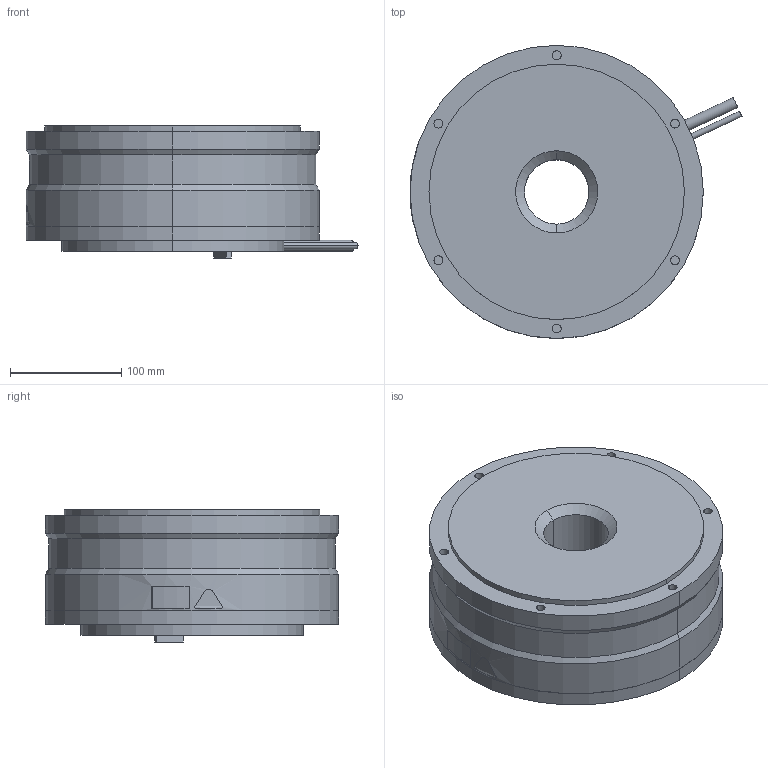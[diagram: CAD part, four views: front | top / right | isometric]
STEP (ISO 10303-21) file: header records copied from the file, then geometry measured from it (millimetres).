
FILE_DESCRIPTION (( 'STEP AP203' ), '1' );
FILE_NAME ('sgm7d_30f_c4_.STEP', '2016-02-22T06:24:05', ( '' ), ( '' ), 'SwSTEP 2.0', 'SolidWorks 2010', '' );
FILE_SCHEMA (( 'CONFIG_CONTROL_DESIGN' ));
Length unit declared in the file: millimetre
Products named in the file (1): sgm7d_30f_c4_
Bounding box: 298.93 x 264 x 119 mm (x, y, z)
Volume: 5481466.2 mm3; surface area: 231301.9 mm2
Topology: 3 solids, 3 shells, 203 faces, 432 edges, 282 vertices
Faces by surface type: cylinder 122, plane 70, cone 6, bspline 5
Entity records: 5969 total; most frequent: CARTESIAN_POINT 1295, DIRECTION 1066, ORIENTED_EDGE 864, AXIS2_PLACEMENT_3D 455, EDGE_CURVE 432, VERTEX_POINT 282, CIRCLE 256, EDGE_LOOP 252
